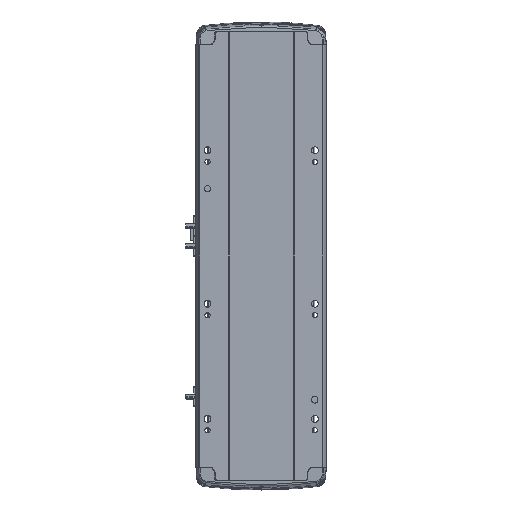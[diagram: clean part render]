
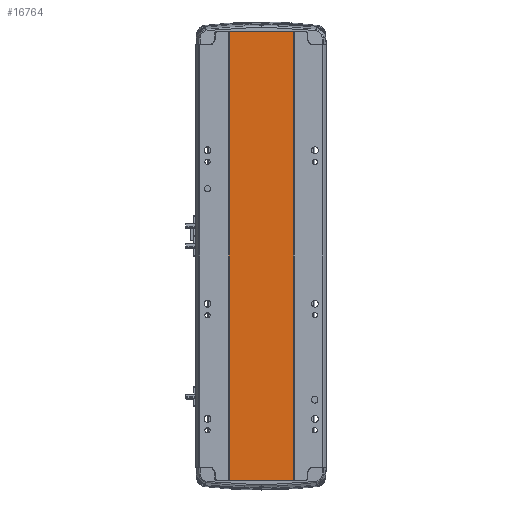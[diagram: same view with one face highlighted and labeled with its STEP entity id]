
A CAD part, front view. The second image highlights one B-rep face of the part: STEP entity #16764.
In plain terms, the highlighted planar face has unit normal (0, -1, 0).
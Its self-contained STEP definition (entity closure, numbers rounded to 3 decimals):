
#203 = ORIENTED_EDGE ( 'NONE', *, *, #24702, .F. ) ;
#2010 = EDGE_LOOP ( 'NONE', ( #27372, #203, #19953, #32956 ) ) ;
#2197 = LINE ( 'NONE', #25919, #23519 ) ;
#2462 = DIRECTION ( 'NONE',  ( 0., 1., 0. ) ) ;
#4003 = VERTEX_POINT ( 'NONE', #8976 ) ;
#4111 = CARTESIAN_POINT ( 'NONE',  ( 41.793, 0.998, 584.5 ) ) ;
#4549 = LINE ( 'NONE', #15452, #31973 ) ;
#4850 = DIRECTION ( 'NONE',  ( 1., 0., 0. ) ) ;
#4945 = EDGE_CURVE ( 'NONE', #5840, #34369, #2197, .T. ) ;
#5840 = VERTEX_POINT ( 'NONE', #19449 ) ;
#7301 = LINE ( 'NONE', #33391, #7752 ) ;
#7752 = VECTOR ( 'NONE', #33247, 1000. ) ;
#8976 = CARTESIAN_POINT ( 'NONE',  ( 41.793, 0.998, 0. ) ) ;
#9314 = DIRECTION ( 'NONE',  ( 0., 0., -1. ) ) ;
#12233 = CARTESIAN_POINT ( 'NONE',  ( 41.793, 0.998, 584.5 ) ) ;
#12673 = DIRECTION ( 'NONE',  ( 1., 0., 0. ) ) ;
#14147 = DIRECTION ( 'NONE',  ( -1., 0., 0. ) ) ;
#15452 = CARTESIAN_POINT ( 'NONE',  ( 0., 0.999, 0. ) ) ;
#16764 = ADVANCED_FACE ( 'NONE', ( #29429 ), #35605, .F. ) ;
#19449 = CARTESIAN_POINT ( 'NONE',  ( -41.791, 1., 584.5 ) ) ;
#19953 = ORIENTED_EDGE ( 'NONE', *, *, #4945, .F. ) ;
#21485 = AXIS2_PLACEMENT_3D ( 'NONE', #35225, #2462, #14147 ) ;
#22063 = VECTOR ( 'NONE', #9314, 1000. ) ;
#22224 = EDGE_CURVE ( 'NONE', #23839, #4003, #4549, .T. ) ;
#23519 = VECTOR ( 'NONE', #4850, 1000. ) ;
#23839 = VERTEX_POINT ( 'NONE', #26787 ) ;
#24702 = EDGE_CURVE ( 'NONE', #34369, #4003, #37588, .T. ) ;
#25919 = CARTESIAN_POINT ( 'NONE',  ( 0., 0.999, 584.5 ) ) ;
#26787 = CARTESIAN_POINT ( 'NONE',  ( -41.791, 1., 0. ) ) ;
#27372 = ORIENTED_EDGE ( 'NONE', *, *, #22224, .T. ) ;
#29429 = FACE_OUTER_BOUND ( 'NONE', #2010, .T. ) ;
#31973 = VECTOR ( 'NONE', #12673, 1000. ) ;
#32956 = ORIENTED_EDGE ( 'NONE', *, *, #35537, .T. ) ;
#33247 = DIRECTION ( 'NONE',  ( 0., 0., -1. ) ) ;
#33391 = CARTESIAN_POINT ( 'NONE',  ( -41.791, 1., 584.5 ) ) ;
#34369 = VERTEX_POINT ( 'NONE', #4111 ) ;
#35225 = CARTESIAN_POINT ( 'NONE',  ( 0., 0.999, 584.5 ) ) ;
#35537 = EDGE_CURVE ( 'NONE', #5840, #23839, #7301, .T. ) ;
#35605 = PLANE ( 'NONE',  #21485 ) ;
#37588 = LINE ( 'NONE', #12233, #22063 ) ;
